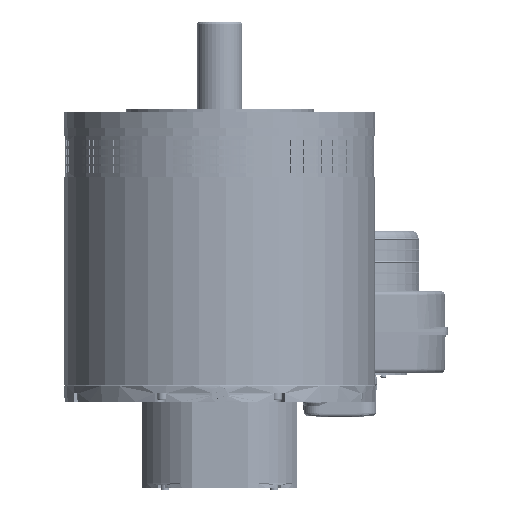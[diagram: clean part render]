
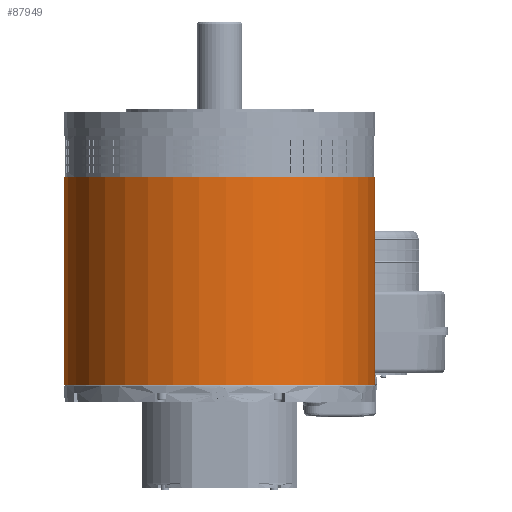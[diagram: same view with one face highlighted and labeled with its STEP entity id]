
A CAD part, front view. The second image highlights one B-rep face of the part: STEP entity #87949.
In plain terms, the highlighted cylindrical face has radius 190 mm (diameter 380 mm), a full revolution.
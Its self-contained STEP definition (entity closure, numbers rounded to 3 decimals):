
#2888=FACE_BOUND('',#16094,.T.);
#2889=FACE_BOUND('',#16095,.T.);
#2890=FACE_BOUND('',#16096,.T.);
#16094=EDGE_LOOP('',(#76319,#76320,#76321,#76322,#76323,#76324,#76325,#76326));
#16095=EDGE_LOOP('',(#76327));
#16096=EDGE_LOOP('',(#76328));
#17585=B_SPLINE_CURVE_WITH_KNOTS('',3,(#156435,#156436,#156437,#156438,
#156439,#156440,#156441,#156442,#156443,#156444),.UNSPECIFIED.,.F.,.F.,
(4,2,2,2,4),(0.762,0.956,1.15,1.338,
1.526),.UNSPECIFIED.);
#17586=B_SPLINE_CURVE_WITH_KNOTS('',3,(#156507,#156508,#156509,#156510,
#156511,#156512,#156513,#156514,#156515,#156516),.UNSPECIFIED.,.F.,.F.,
(4,2,2,2,4),(1.526,1.714,1.902,2.096,
2.29),.UNSPECIFIED.);
#17587=B_SPLINE_CURVE_WITH_KNOTS('',3,(#156522,#156523,#156524,#156525,
#156526,#156527,#156528,#156529,#156530,#156531),.UNSPECIFIED.,.F.,.F.,
(4,2,2,2,4),(-0.764,-0.57,-0.376,-0.188,
0.),.UNSPECIFIED.);
#17588=B_SPLINE_CURVE_WITH_KNOTS('',3,(#156538,#156539,#156540,#156541,
#156542,#156543,#156544,#156545,#156546,#156547),.UNSPECIFIED.,.F.,.F.,
(4,2,2,2,4),(0.,0.188,0.376,0.57,0.764),
 .UNSPECIFIED.);
#23379=LINE('',#156430,#29355);
#23411=LINE('',#156549,#29387);
#29355=VECTOR('',#120083,35.);
#29387=VECTOR('',#120197,35.);
#34093=CIRCLE('',#96922,190.);
#34094=CIRCLE('',#96958,190.);
#34119=CIRCLE('',#97019,190.);
#34120=CIRCLE('',#97021,190.);
#41797=VERTEX_POINT('',#156427);
#41798=VERTEX_POINT('',#156429);
#41799=VERTEX_POINT('',#156433);
#41800=VERTEX_POINT('',#156446);
#41801=VERTEX_POINT('',#156506);
#41802=VERTEX_POINT('',#156519);
#41803=VERTEX_POINT('',#156521);
#41804=VERTEX_POINT('',#156536);
#41829=VERTEX_POINT('',#156632);
#41830=VERTEX_POINT('',#156635);
#53484=EDGE_CURVE('',#41798,#41797,#23379,.T.);
#53487=EDGE_CURVE('',#41799,#41797,#17585,.T.);
#53489=EDGE_CURVE('',#41799,#41800,#34093,.T.);
#53514=EDGE_CURVE('',#41798,#41801,#17586,.T.);
#53517=EDGE_CURVE('',#41802,#41803,#17587,.T.);
#53519=EDGE_CURVE('',#41802,#41801,#34094,.T.);
#53521=EDGE_CURVE('',#41804,#41800,#17588,.T.);
#53522=EDGE_CURVE('',#41804,#41803,#23411,.T.);
#53547=EDGE_CURVE('',#41829,#41829,#34119,.T.);
#53548=EDGE_CURVE('',#41830,#41830,#34120,.T.);
#76319=ORIENTED_EDGE('',*,*,#53484,.T.);
#76320=ORIENTED_EDGE('',*,*,#53487,.F.);
#76321=ORIENTED_EDGE('',*,*,#53489,.T.);
#76322=ORIENTED_EDGE('',*,*,#53521,.F.);
#76323=ORIENTED_EDGE('',*,*,#53522,.T.);
#76324=ORIENTED_EDGE('',*,*,#53517,.F.);
#76325=ORIENTED_EDGE('',*,*,#53519,.T.);
#76326=ORIENTED_EDGE('',*,*,#53514,.F.);
#76327=ORIENTED_EDGE('',*,*,#53547,.T.);
#76328=ORIENTED_EDGE('',*,*,#53548,.F.);
#80554=CYLINDRICAL_SURFACE('',#97020,190.);
#87949=ADVANCED_FACE('',(#2888,#2889,#2890),#80554,.T.);
#96922=AXIS2_PLACEMENT_3D('',#156448,#120091,#120092);
#96958=AXIS2_PLACEMENT_3D('',#156534,#120190,#120191);
#97019=AXIS2_PLACEMENT_3D('',#156633,#120314,#120315);
#97020=AXIS2_PLACEMENT_3D('',#156634,#120316,#120317);
#97021=AXIS2_PLACEMENT_3D('',#156636,#120318,#120319);
#120083=DIRECTION('',(0.,0.,1.));
#120091=DIRECTION('center_axis',(0.,0.,1.));
#120092=DIRECTION('ref_axis',(0.737,0.676,0.));
#120190=DIRECTION('center_axis',(0.,0.,-1.));
#120191=DIRECTION('ref_axis',(0.737,0.676,0.));
#120197=DIRECTION('',(0.,0.,-1.));
#120314=DIRECTION('center_axis',(0.,0.,-1.));
#120315=DIRECTION('ref_axis',(0.676,-0.737,0.));
#120316=DIRECTION('center_axis',(0.,0.,-1.));
#120317=DIRECTION('ref_axis',(0.737,0.676,0.));
#120318=DIRECTION('center_axis',(0.,0.,-1.));
#120319=DIRECTION('ref_axis',(0.676,-0.737,0.));
#156427=CARTESIAN_POINT('',(167.482,89.721,-263.));
#156429=CARTESIAN_POINT('',(167.482,89.721,-298.));
#156430=CARTESIAN_POINT('',(167.482,89.721,-187.5));
#156433=CARTESIAN_POINT('',(164.992,94.221,-258.));
#156435=CARTESIAN_POINT('Ctrl Pts',(164.992,94.221,-258.));
#156436=CARTESIAN_POINT('Ctrl Pts',(165.313,93.66,-258.));
#156437=CARTESIAN_POINT('Ctrl Pts',(165.652,93.059,-258.126));
#156438=CARTESIAN_POINT('Ctrl Pts',(166.271,91.947,-258.642));
#156439=CARTESIAN_POINT('Ctrl Pts',(166.552,91.436,-259.031));
#156440=CARTESIAN_POINT('Ctrl Pts',(166.988,90.638,-259.923));
#156441=CARTESIAN_POINT('Ctrl Pts',(167.174,90.294,-260.481));
#156442=CARTESIAN_POINT('Ctrl Pts',(167.421,89.835,-261.705));
#156443=CARTESIAN_POINT('Ctrl Pts',(167.482,89.721,-262.373));
#156444=CARTESIAN_POINT('Ctrl Pts',(167.482,89.721,-263.));
#156446=CARTESIAN_POINT('',(108.243,156.152,-258.));
#156448=CARTESIAN_POINT('Origin',(0.,0.,-258.));
#156506=CARTESIAN_POINT('',(164.992,94.221,-303.));
#156507=CARTESIAN_POINT('Ctrl Pts',(167.482,89.721,-298.));
#156508=CARTESIAN_POINT('Ctrl Pts',(167.482,89.721,-298.627));
#156509=CARTESIAN_POINT('Ctrl Pts',(167.421,89.835,-299.295));
#156510=CARTESIAN_POINT('Ctrl Pts',(167.174,90.294,-300.519));
#156511=CARTESIAN_POINT('Ctrl Pts',(166.988,90.638,-301.077));
#156512=CARTESIAN_POINT('Ctrl Pts',(166.552,91.436,-301.969));
#156513=CARTESIAN_POINT('Ctrl Pts',(166.271,91.947,-302.358));
#156514=CARTESIAN_POINT('Ctrl Pts',(165.652,93.059,-302.874));
#156515=CARTESIAN_POINT('Ctrl Pts',(165.313,93.66,-303.));
#156516=CARTESIAN_POINT('Ctrl Pts',(164.992,94.221,-303.));
#156519=CARTESIAN_POINT('',(108.243,156.152,-303.));
#156521=CARTESIAN_POINT('',(103.976,159.025,-298.));
#156522=CARTESIAN_POINT('Ctrl Pts',(108.243,156.152,-303.));
#156523=CARTESIAN_POINT('Ctrl Pts',(107.711,156.52,-303.));
#156524=CARTESIAN_POINT('Ctrl Pts',(107.142,156.911,-302.874));
#156525=CARTESIAN_POINT('Ctrl Pts',(106.088,157.625,-302.358));
#156526=CARTESIAN_POINT('Ctrl Pts',(105.604,157.949,-301.969));
#156527=CARTESIAN_POINT('Ctrl Pts',(104.847,158.453,-301.077));
#156528=CARTESIAN_POINT('Ctrl Pts',(104.52,158.668,-300.519));
#156529=CARTESIAN_POINT('Ctrl Pts',(104.085,158.954,-299.295));
#156530=CARTESIAN_POINT('Ctrl Pts',(103.976,159.025,-298.627));
#156531=CARTESIAN_POINT('Ctrl Pts',(103.976,159.025,-298.));
#156534=CARTESIAN_POINT('Origin',(0.,0.,-303.));
#156536=CARTESIAN_POINT('',(103.976,159.025,-263.));
#156538=CARTESIAN_POINT('Ctrl Pts',(103.976,159.025,-263.));
#156539=CARTESIAN_POINT('Ctrl Pts',(103.976,159.025,-262.373));
#156540=CARTESIAN_POINT('Ctrl Pts',(104.085,158.954,-261.705));
#156541=CARTESIAN_POINT('Ctrl Pts',(104.52,158.668,-260.481));
#156542=CARTESIAN_POINT('Ctrl Pts',(104.847,158.453,-259.923));
#156543=CARTESIAN_POINT('Ctrl Pts',(105.604,157.949,-259.031));
#156544=CARTESIAN_POINT('Ctrl Pts',(106.088,157.625,-258.642));
#156545=CARTESIAN_POINT('Ctrl Pts',(107.142,156.911,-258.126));
#156546=CARTESIAN_POINT('Ctrl Pts',(107.711,156.52,-258.));
#156547=CARTESIAN_POINT('Ctrl Pts',(108.243,156.152,-258.));
#156549=CARTESIAN_POINT('',(103.976,159.025,-187.5));
#156632=CARTESIAN_POINT('',(140.083,128.362,-60.));
#156633=CARTESIAN_POINT('Origin',(0.,0.,-60.));
#156634=CARTESIAN_POINT('Origin',(0.,0.,-187.5));
#156635=CARTESIAN_POINT('',(140.083,128.362,-315.));
#156636=CARTESIAN_POINT('Origin',(0.,0.,-315.));
